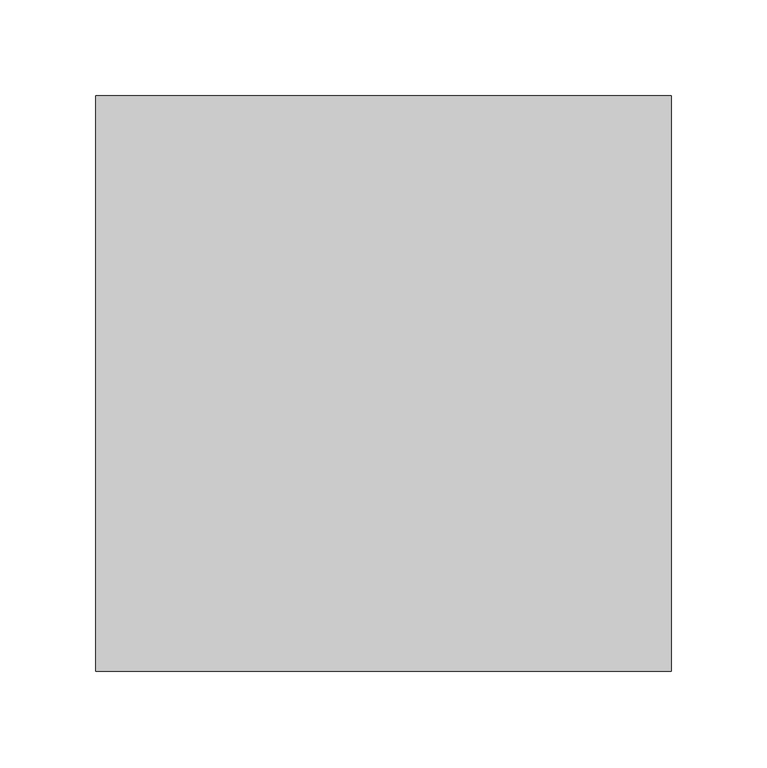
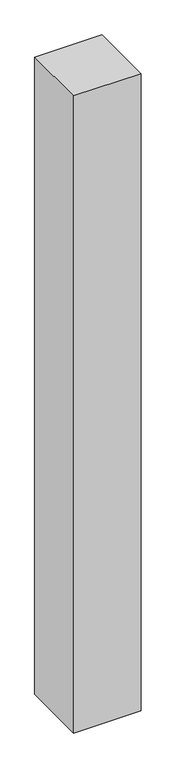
"""IFC4 building model written with IfcOpenShell, lengths in millimetres: column geometry, Poteau béton - Carré : 300 mm x 300 mm."""

from ifc_helpers import new_model, si_unit, origin, origin_with_axes, place, context, project, spatial, polyline, outline, extrude, source, transform, mapped, element, save


def column_ecec69fe(model_context):
    return source(origin(), model_context, "Body", "SweptSolid", [
        extrude(outline(polyline([(150.0, 150.0), (150.0, -150.0), (-150.0, -150.0), (-150.0, 150.0), (150.0, 150.0)])), origin_with_axes(), (0.0, 0.0, 1.0), 3000.0),
    ])


if __name__ == "__main__":
    model = new_model("IFC4")
    model_context = context("Model", 3, world=origin())
    ifc_project = project(units=[si_unit("LENGTHUNIT", "METRE", prefix="MILLI")], contexts=[model_context])
    site = spatial("IfcSite", under=ifc_project)
    building = spatial("IfcBuilding", under=site)
    placement = place(None, origin())
    column_shape = column_ecec69fe(model_context)
    element("IfcColumn", 1, ObjectType="Poteau béton - Carré : 300 mm x 300 mm", at=placement, inside=building, context=model_context, shape_type="MappedRepresentation", body=[
        mapped(column_shape, transform((0.0, 0.0, 0.0), x_axis=(1.0, 0.0, 0.0), y_axis=(0.0, 1.0, 0.0), z_axis=(0.0, 0.0, 1.0))),
    ])
    save(model, "model.ifc")
